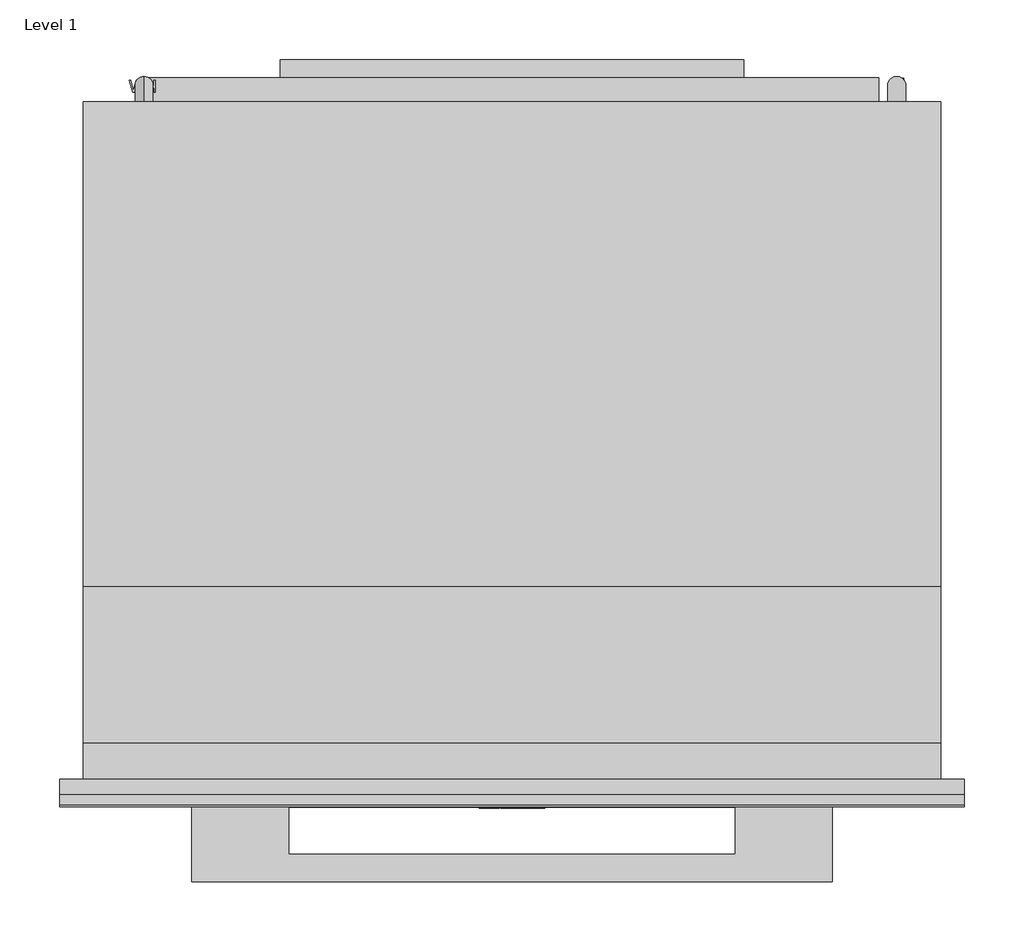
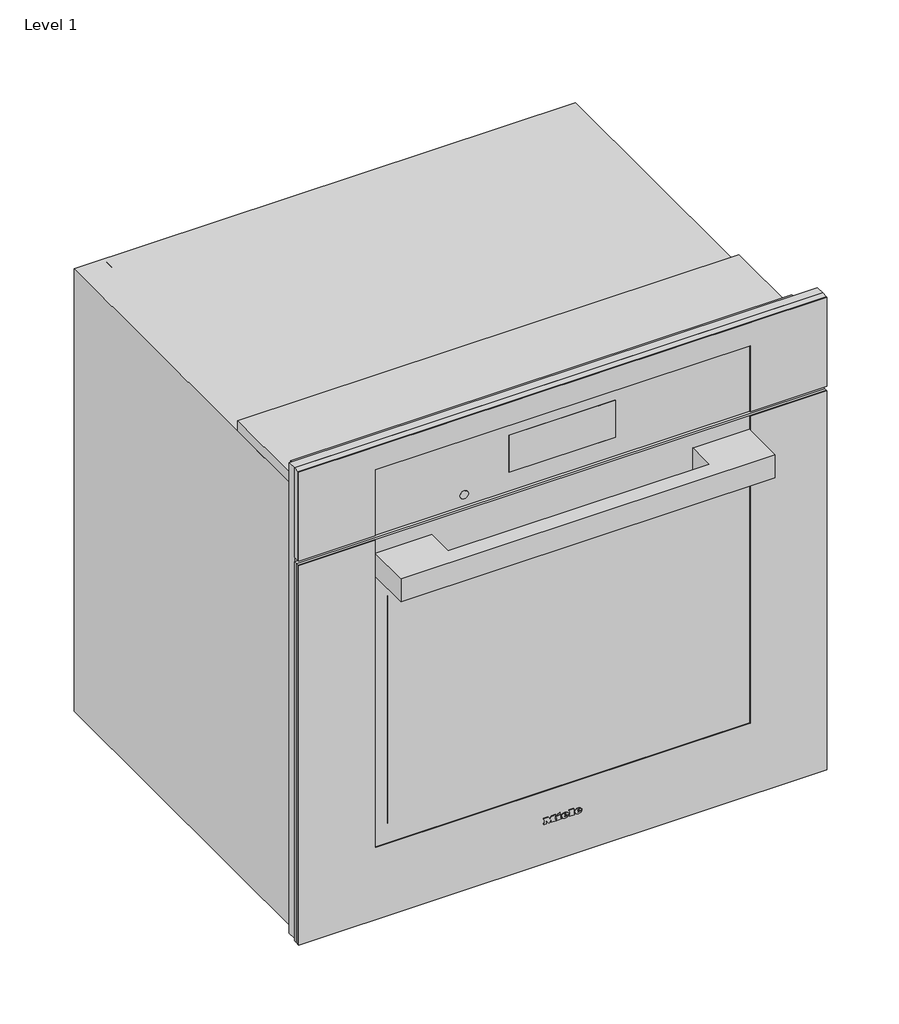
# One storey: 1 proxy.
"""IFC4 building model written with IfcOpenShell, lengths in millimetres."""

from ifc_helpers import new_model, si_unit, origin, place, context, project, spatial, transform, mapped, element, save
from components import specialty_equipment_a832f703

model = new_model("IFC4")

# Units and contexts
model_context = context("Model", 3, world=origin())
ifc_project = project(units=[si_unit("LENGTHUNIT", "METRE", prefix="MILLI")], contexts=[model_context])

# Site, building, storey
site = spatial("IfcSite", under=ifc_project)
building = spatial("IfcBuilding", under=site)
storey = spatial("IfcBuildingStorey", under=building, Name="Level 1", Elevation=0.0)

# Proxy
placement = place(None, origin())
specialty_equipment_shape = specialty_equipment_a832f703(model_context)
element("IfcBuildingElementProxy", 1, Name="11805560_USA_H7780BP_EDST-CLST : 22778045_USA_11805560_H7780BP_EDST-CLST", ObjectType="11805560_USA_H7780BP_EDST-CLST : 22778045_USA_11805560_H7780BP_EDST-CLST", at=placement, inside=storey, context=model_context, shape_type="MappedRepresentation", body=[
    mapped(specialty_equipment_shape, transform((0.0, 0.0, 0.0), x_axis=(1.0, 0.0, 0.0), y_axis=(0.0, 1.0, 0.0), z_axis=(0.0, 0.0, 1.0))),
])

save(model, "model.ifc")
